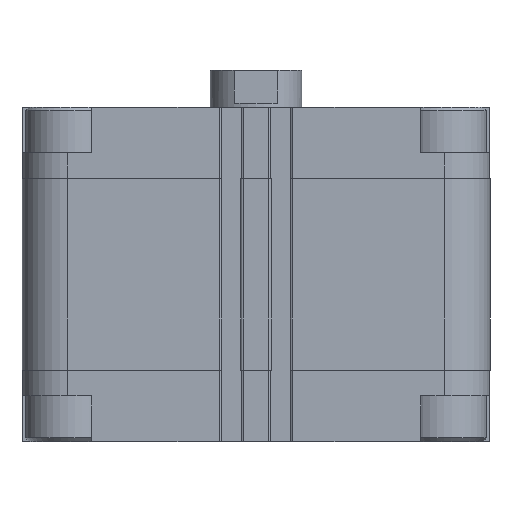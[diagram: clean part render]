
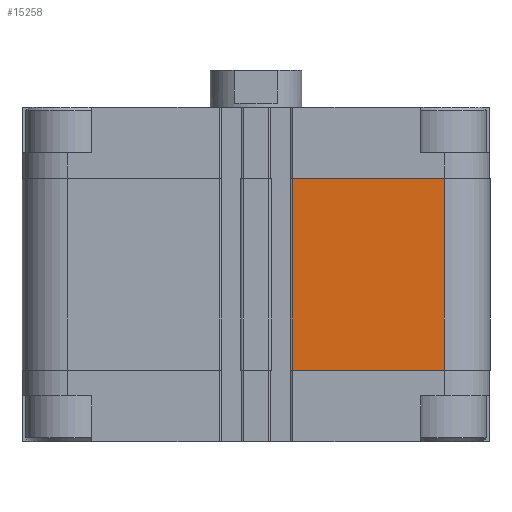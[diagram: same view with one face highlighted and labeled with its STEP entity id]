
A CAD part, front view. The second image highlights one B-rep face of the part: STEP entity #15258.
In plain terms, the highlighted planar face has unit normal (0, -1, 0).
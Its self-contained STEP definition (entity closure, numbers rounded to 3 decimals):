
#55 = PLANE ( 'NONE',  #11033 ) ;
#1333 = LINE ( 'NONE', #15984, #17128 ) ;
#1749 = DIRECTION ( 'NONE',  ( -1., 0., 0. ) ) ;
#1859 = CARTESIAN_POINT ( 'NONE',  ( 9.95, -64., -72. ) ) ;
#2077 = VERTEX_POINT ( 'NONE', #17934 ) ;
#2447 = CARTESIAN_POINT ( 'NONE',  ( 51.5, -64., -19.5 ) ) ;
#4802 = DIRECTION ( 'NONE',  ( 0., 0., 1. ) ) ;
#5632 = CARTESIAN_POINT ( 'NONE',  ( 9.95, -64., -19.5 ) ) ;
#5990 = CARTESIAN_POINT ( 'NONE',  ( 51.5, -64., -72. ) ) ;
#6492 = FACE_OUTER_BOUND ( 'NONE', #20179, .T. ) ;
#7304 = LINE ( 'NONE', #5632, #14447 ) ;
#7743 = VECTOR ( 'NONE', #4802, 1000. ) ;
#7776 = DIRECTION ( 'NONE',  ( 0., 0., 1. ) ) ;
#8942 = LINE ( 'NONE', #17050, #13481 ) ;
#9814 = ORIENTED_EDGE ( 'NONE', *, *, #18363, .F. ) ;
#11033 = AXIS2_PLACEMENT_3D ( 'NONE', #12924, #16191, #1749 ) ;
#12810 = LINE ( 'NONE', #19237, #7743 ) ;
#12924 = CARTESIAN_POINT ( 'NONE',  ( 9.95, -64., -72. ) ) ;
#13481 = VECTOR ( 'NONE', #15370, 1000. ) ;
#13640 = DIRECTION ( 'NONE',  ( 1., 0., 0. ) ) ;
#14447 = VECTOR ( 'NONE', #13640, 1000. ) ;
#14847 = ORIENTED_EDGE ( 'NONE', *, *, #18348, .T. ) ;
#15258 = ADVANCED_FACE ( 'NONE', ( #6492 ), #55, .T. ) ;
#15370 = DIRECTION ( 'NONE',  ( 1., 0., 0. ) ) ;
#15984 = CARTESIAN_POINT ( 'NONE',  ( 51.5, -64., -72. ) ) ;
#16191 = DIRECTION ( 'NONE',  ( 0., -1., 0. ) ) ;
#16666 = EDGE_CURVE ( 'NONE', #16765, #20282, #1333, .T. ) ;
#16765 = VERTEX_POINT ( 'NONE', #5990 ) ;
#16844 = VERTEX_POINT ( 'NONE', #1859 ) ;
#17050 = CARTESIAN_POINT ( 'NONE',  ( 9.95, -64., -72. ) ) ;
#17128 = VECTOR ( 'NONE', #7776, 1000. ) ;
#17344 = EDGE_CURVE ( 'NONE', #2077, #20282, #7304, .T. ) ;
#17934 = CARTESIAN_POINT ( 'NONE',  ( 9.95, -64., -19.5 ) ) ;
#18348 = EDGE_CURVE ( 'NONE', #16844, #16765, #8942, .T. ) ;
#18363 = EDGE_CURVE ( 'NONE', #16844, #2077, #12810, .T. ) ;
#18614 = ORIENTED_EDGE ( 'NONE', *, *, #17344, .F. ) ;
#19237 = CARTESIAN_POINT ( 'NONE',  ( 9.95, -64., -72. ) ) ;
#19493 = ORIENTED_EDGE ( 'NONE', *, *, #16666, .T. ) ;
#20179 = EDGE_LOOP ( 'NONE', ( #18614, #9814, #14847, #19493 ) ) ;
#20282 = VERTEX_POINT ( 'NONE', #2447 ) ;
